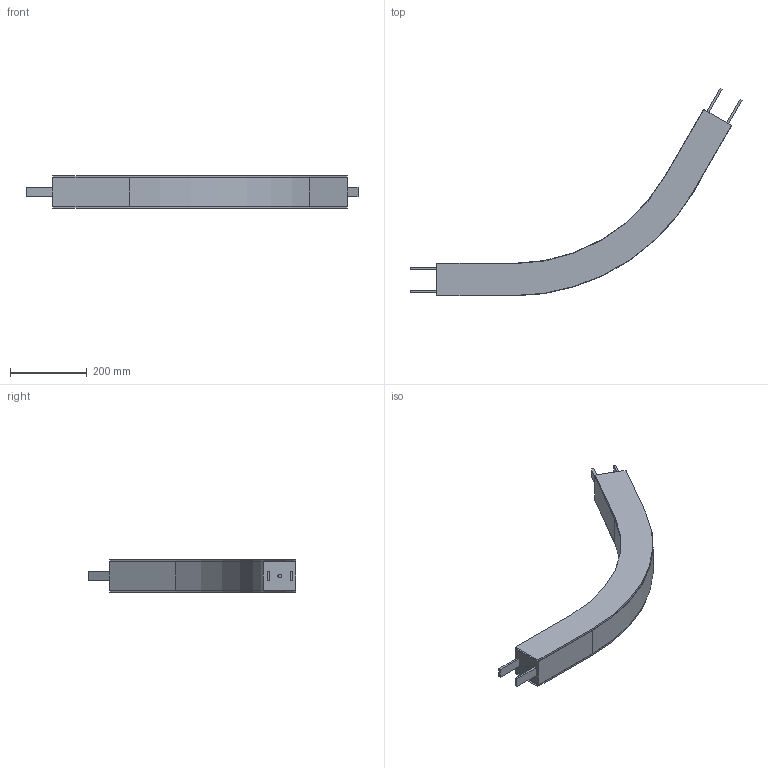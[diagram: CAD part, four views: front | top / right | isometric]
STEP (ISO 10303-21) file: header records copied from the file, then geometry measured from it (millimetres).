
FILE_DESCRIPTION(/* description */ ('Horizontaler Gleitbogen, 60°, R500'),/* implementation_level */ '2;1');
FILE_NAME(/* name */ 'T:\vdz0\Step Daten Website\modulflex FM-System\Horizontale Gleitbögen\FMBP 60R500_43821.stp',/* time_stamp */ '2024-09-03T10:28:37+02:00',/* author */ ('lzb0'),/* organization */ ('modular automation GmbH'),/* preprocessor_version */ 'ST-DEVELOPER v18.1',/* originating_system */ 'Autodesk Inventor 2021',/* authorisation */ '');
FILE_SCHEMA (('AUTOMOTIVE_DESIGN { 1 0 10303 214 3 1 1 }'));
Length unit declared in the file: millimetre
Products named in the file (1): FMBP 60R500
Bounding box: 866.59 x 542.83 x 85 mm (x, y, z)
Volume: 5971942.2 mm3; surface area: 669956.7 mm2
Topology: 5 solids, 9 shells, 52 faces, 126 edges, 84 vertices
Faces by surface type: plane 44, cylinder 8
Full cylindrical faces by diameter (mm): 10 x2
Entity records: 1596 total; most frequent: CARTESIAN_POINT 270, DIRECTION 250, ORIENTED_EDGE 232, EDGE_CURVE 126, LINE 110, VECTOR 110, VERTEX_POINT 84, AXIS2_PLACEMENT_3D 70
